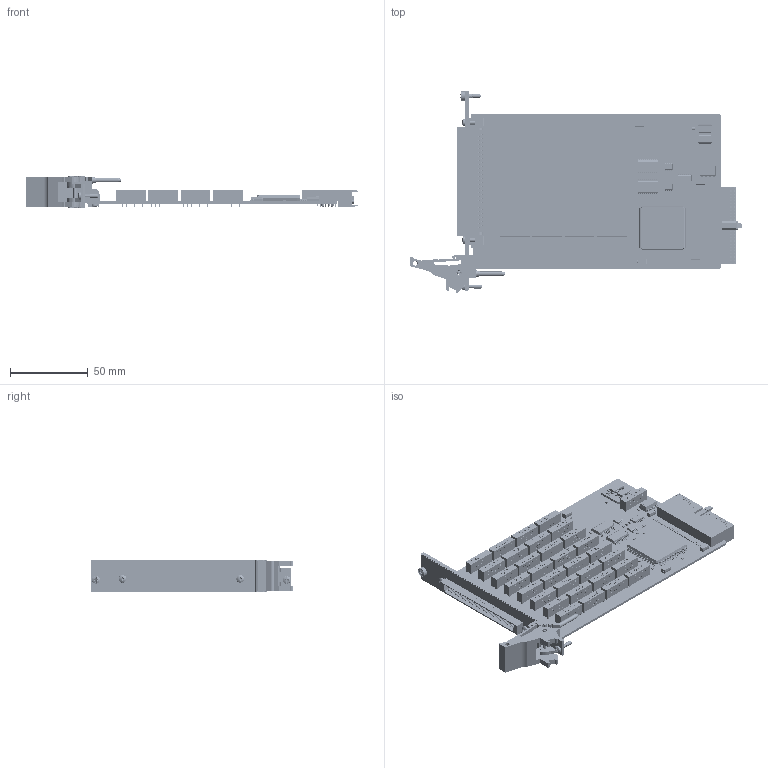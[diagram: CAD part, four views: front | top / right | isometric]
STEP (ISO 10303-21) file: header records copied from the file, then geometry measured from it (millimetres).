
FILE_DESCRIPTION (( 'STEP AP214' ), '1' );
FILE_NAME ('40-110-121 PXI 32 x SPDT Reed Relay.step', '2025-02-13T16:35:28', ( '' ), ( '' ), 'SwSTEP 2.0', 'SolidWorks 2023', '' );
FILE_SCHEMA (( 'AUTOMOTIVE_DESIGN' ));
Length unit declared in the file: millimetre
Products named in the file (35): C-CN-379 96 Way Connector.Part; C-IC-305 5PIN SD; C-FX-165 Handle Finger; A-PC-245 PXI UCR x 32 CONV PCB Assembly; C-FP-163 PXI 3U 1-Slot 96-Way Connector; C-BK-026 Bush Front Panel Mounting; C-PC-245 PXI UCR x 32 CONV PCB; L-FP-163 PXI 3U 1 Slot 96 Way FP Label Assy; C-FX-1176 M2,5 Collar Posi-Slot Screw; C-IC-219 PCI Interface IC 32-bit 33MHz PCI Target; C-FX-101 Screw, M2.5 x 6, Pan Hd, Pozi, Steel, BZP; C-FX-165 Handle Body; C-IC-124 16-Bit Constant Current Sink Driver; A-FP-163 FP + Label Assy; C-IC-100 IC, with Clear, Non Inverted, Positive Edge, 12 ns, 37 MHz, 4 mA, SOIC_Without Pckage Description; 40-110-121 PXI 32 x SPDT Reed Relay; C-RL-057 TH RL 1C 35172 D PICKERING 107-1-C TH SD; A-FP-163-L1 FP Full Assy; C-IC-090 IC EEPROM 2K 8SOIC_No Text; C-FX-165 Handle Pin; C-CP-160 Cap 10uF 16V Tant Smt (C.CASE); C-IC-099 DIP8 Package; P-FX-017 M2,5 Collar Posi-Slot Screw; C-IC-087 IC TTL Gate 14-Pin SOIC_No Text; C-PC-1164 Serial Input Driver Board; C-RS-102 RES 4x10R 1206 1-16W 5% 200PPM; C-BP-015 PXI 3U x 1 Slot Blank Panel; A-PC-1164-# Serial Input Driver Board; L-FP-163-# PXI 3U 1 Slot 96 Way FP Label; Z-FX-2001 FP Fixing - Bush + Screw; A-PC-1164 Serial Input Driver Board; C-FX-165 CPCI Ejector Handle; C-CP-034; C-CN-355 Compact pci connector 3; L-FX-165 PXI Handle Label
Assembly tree (114 placements, depth 5):
  40-110-121 PXI 32 x SPDT Reed Relay
    A-PC-245 PXI UCR x 32 CONV PCB Assembly
      C-PC-245 PXI UCR x 32 CONV PCB
      C-CN-355 Compact pci connector 3
      C-IC-219 PCI Interface IC 32-bit 33MHz PCI Target
      C-RS-102 RES 4x10R 1206 1-16W 5% 200PPM  x13
      C-RL-057 TH RL 1C 35172 D PICKERING 107-1-C TH SD  x33
      C-IC-087 IC TTL Gate 14-Pin SOIC_No Text
      C-IC-090 IC EEPROM 2K 8SOIC_No Text  x3
      C-IC-100 IC, with Clear, Non Inverted, Positive Edge, 12 ns, 37 MHz, 4 mA, SOIC_Without Pckage Description  x2
      C-IC-099 DIP8 Package
      C-CP-160 Cap 10uF 16V Tant Smt (C.CASE)  x4
      C-CP-034  x21
      A-PC-1164 Serial Input Driver Board
        A-PC-1164-# Serial Input Driver Board
          C-PC-1164 Serial Input Driver Board
          C-IC-305 5PIN SD
          C-CP-034  x4
          C-IC-124 16-Bit Constant Current Sink Driver  x2
    A-FP-163-L1 FP Full Assy
      A-FP-163 FP + Label Assy
        C-FP-163 PXI 3U 1-Slot 96-Way Connector
          C-BP-015 PXI 3U x 1 Slot Blank Panel
        L-FP-163 PXI 3U 1 Slot 96 Way FP Label Assy
          L-FP-163-# PXI 3U 1 Slot 96 Way FP Label
      C-FX-165 CPCI Ejector Handle
        C-FX-165 Handle Body
        C-FX-165 Handle Finger
        C-FX-165 Handle Pin
        P-FX-017 M2,5 Collar Posi-Slot Screw
        L-FX-165 PXI Handle Label
      Z-FX-2001 FP Fixing - Bush + Screw
        C-BK-026 Bush Front Panel Mounting
        C-FX-1176 M2,5 Collar Posi-Slot Screw
      C-FX-101 Screw, M2.5 x 6, Pan Hd, Pozi, Steel, BZP
    C-CN-379 96 Way Connector.Part
    C-FX-101 Screw, M2.5 x 6, Pan Hd, Pozi, Steel, BZP  x5
Bounding box: 213.7 x 129.63 x 20 mm (x, y, z)
Volume: 71092.8 mm3; surface area: 98190.5 mm2
Topology: 340 solids, 486 shells, 43841 faces, 116365 edges, 77013 vertices
Faces by surface type: plane 31220, bspline 9200, cylinder 2941, cone 386, torus 62, sphere 32
Entity records: 384547 total; most frequent: CARTESIAN_POINT 75866, ORIENTED_EDGE 48726, DIRECTION 46750, EDGE_CURVE 24931, LINE 19132, VECTOR 19132, VERTEX_POINT 16305, AXIS2_PLACEMENT_3D 13809
